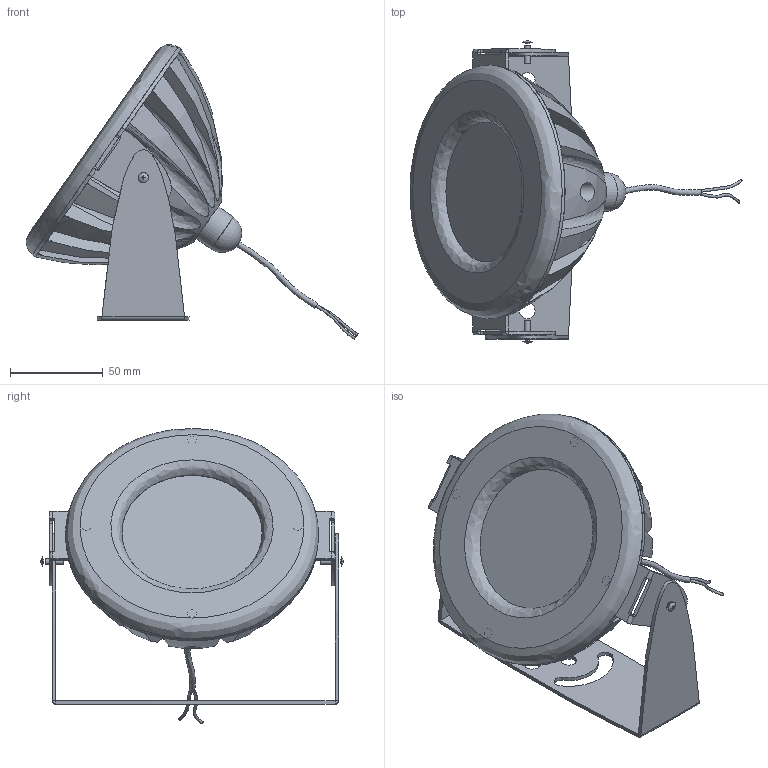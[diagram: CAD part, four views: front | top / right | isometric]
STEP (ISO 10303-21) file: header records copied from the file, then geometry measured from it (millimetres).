
FILE_DESCRIPTION(/* description */ (''),/* implementation_level */ '2;1');
FILE_NAME(/* name */ 'C:/Users/elena/Desktop/Pony.step',/* time_stamp */ '2020-06-23T17:01:25+02:00',/* author */ (''),/* organization */ (''),/* preprocessor_version */ 'ST-DEVELOPER v18.1',/* originating_system */ 'Autodesk Translation Framework v9.3.0.1241',/* authorisation */ '');
FILE_SCHEMA (('AUTOMOTIVE_DESIGN { 1 0 10303 214 3 1 1 }'));
Length unit declared in the file: millimetre
Products named in the file (1): (Unsaved)
Bounding box: 178.82 x 162.86 x 158.84 mm (x, y, z)
Volume: 533989.9 mm3; surface area: 141215.3 mm2
Topology: 10 solids, 10 shells, 256 faces, 647 edges, 422 vertices
Faces by surface type: bspline 104, plane 89, cylinder 60, cone 2, sphere 1
Full cylindrical faces by diameter (mm): 3 x2, 3.2 x2, 5 x10, 8 x1, 8.5 x7, 10 x4, 21 x2, 84.72 x2, 86.74 x1, 94.74 x1, 100.5 x1
Entity records: 15671 total; most frequent: CARTESIAN_POINT 10027, ORIENTED_EDGE 1294, DIRECTION 867, EDGE_CURVE 647, VERTEX_POINT 422, EDGE_LOOP 307, AXIS2_PLACEMENT_3D 307, FACE_OUTER_BOUND 256
